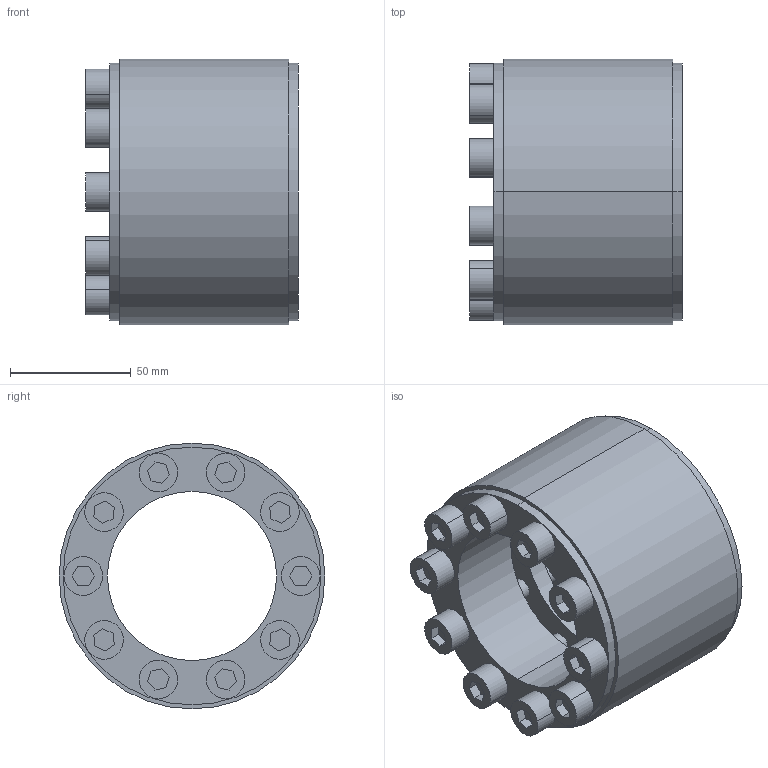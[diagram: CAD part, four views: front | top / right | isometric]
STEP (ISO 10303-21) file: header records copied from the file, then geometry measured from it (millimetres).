
FILE_DESCRIPTION (( 'STEP AP203' ), '1' );
FILE_NAME ('SF-70.STEP', '2009-09-29T17:18:26', ( 'USER' ), ( 'HOME' ), 'SwSTEP 2.0', 'SolidWorks 2007', '' );
FILE_SCHEMA (( 'CONFIG_CONTROL_DESIGN' ));
Length unit declared in the file: millimetre
Products named in the file (1): SF-70
Bounding box: 88 x 110 x 110 mm (x, y, z)
Volume: 385455.6 mm3; surface area: 117418.9 mm2
Topology: 11 solids, 11 shells, 224 faces, 528 edges, 352 vertices
Faces by surface type: cylinder 116, plane 108
Entity records: 6705 total; most frequent: DIRECTION 1210, CARTESIAN_POINT 1105, ORIENTED_EDGE 1056, EDGE_CURVE 528, AXIS2_PLACEMENT_3D 457, VERTEX_POINT 352, EDGE_LOOP 312, VECTOR 296
